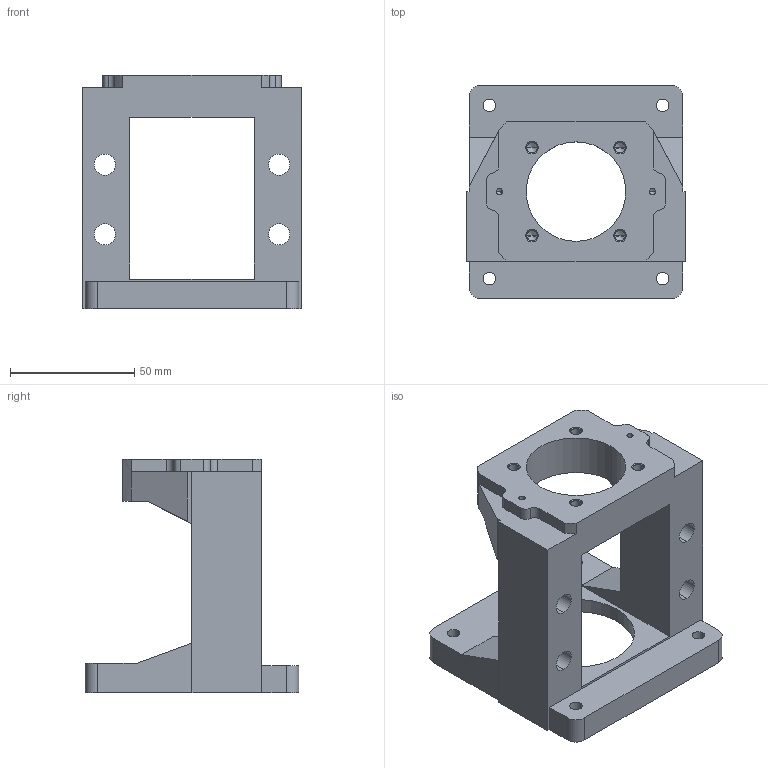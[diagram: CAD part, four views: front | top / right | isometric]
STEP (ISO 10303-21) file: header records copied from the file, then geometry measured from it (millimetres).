
FILE_DESCRIPTION (( 'STEP AP203' ), '1' );
FILE_NAME ('自化件傳動座外MBA15F本體.STEP', '2018-12-27T08:33:57', ( '' ), ( '' ), 'SwSTEP 2.0', 'SolidWorks 2018', '' );
FILE_SCHEMA (( 'CONFIG_CONTROL_DESIGN' ));
Length unit declared in the file: millimetre
Products named in the file (1): 自化件傳動座外MBA15F本體
Bounding box: 88 x 86 x 94 mm (x, y, z)
Volume: 169303.1 mm3; surface area: 45073.5 mm2
Topology: 1 solids, 1 shells, 128 faces, 336 edges, 208 vertices
Faces by surface type: cylinder 58, plane 42, cone 28
Entity records: 3989 total; most frequent: DIRECTION 714, CARTESIAN_POINT 661, ORIENTED_EDGE 648, EDGE_CURVE 324, AXIS2_PLACEMENT_3D 261, VERTEX_POINT 208, VECTOR 192, LINE 192
